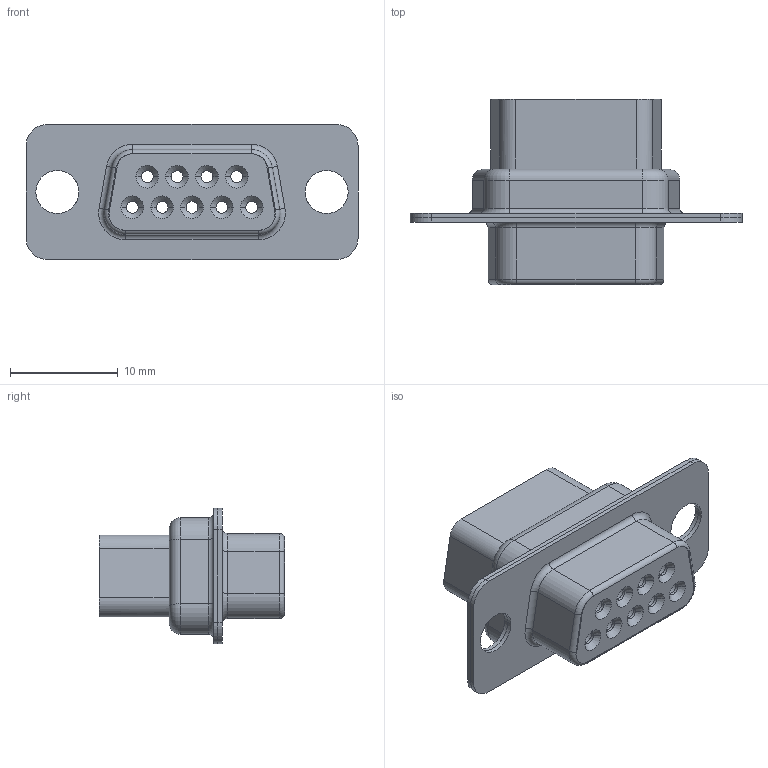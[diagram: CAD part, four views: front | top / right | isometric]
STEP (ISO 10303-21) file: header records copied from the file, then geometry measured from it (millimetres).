
FILE_DESCRIPTION (( 'STEP AP203' ), '1' );
FILE_NAME ('7908-A09FTA-1150824.STEP', '2026-08-24T05:31:34', ( '' ), ( '' ), 'SwSTEP 2.0', 'SolidWorks 2020', '' );
FILE_SCHEMA (( 'CONFIG_CONTROL_DESIGN' ));
Length unit declared in the file: millimetre
Products named in the file (2): 7908-A09FTA-1150824
Assembly tree (1 placements, depth 2):
  7908-A09FTA-1150824
    7908-A09FTA-1150824
Bounding box: 30.81 x 17.2 x 12.55 mm (x, y, z)
Volume: 1801.3 mm3; surface area: 4652.8 mm2
Topology: 4 solids, 4 shells, 460 faces, 1138 edges, 702 vertices
Faces by surface type: cylinder 182, plane 130, cone 108, torus 28, bspline 12
Entity records: 15372 total; most frequent: CARTESIAN_POINT 4336, DIRECTION 2293, ORIENTED_EDGE 2276, EDGE_CURVE 1138, AXIS2_PLACEMENT_3D 948, VERTEX_POINT 702, EDGE_LOOP 524, CIRCLE 496
